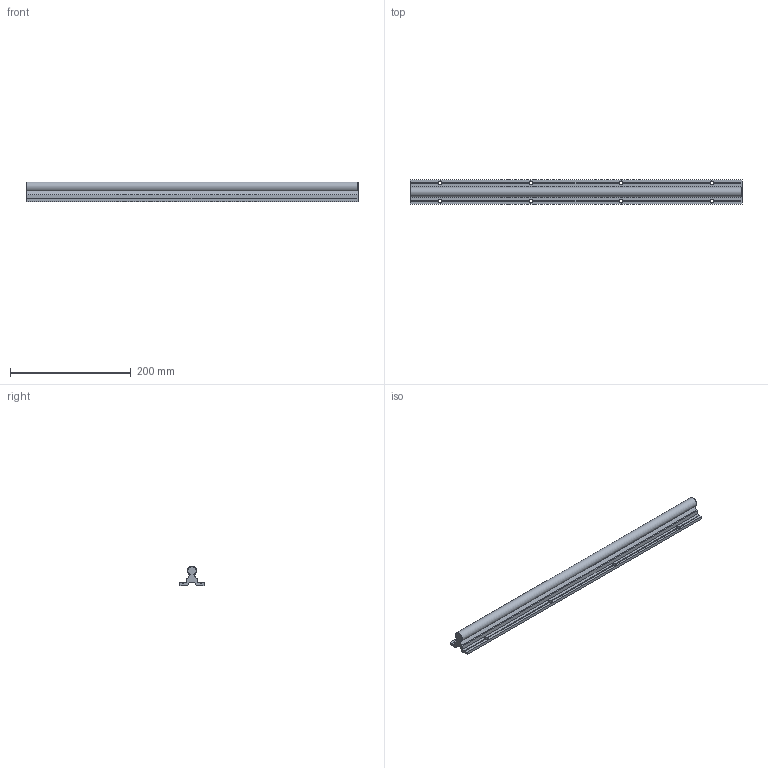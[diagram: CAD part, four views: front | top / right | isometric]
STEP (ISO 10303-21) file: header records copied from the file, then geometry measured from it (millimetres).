
FILE_DESCRIPTION(/* description */ (''),/* implementation_level */ '2;1');
FILE_NAME(/* name */ 'C:\Users\David\Desktop\stepFiles\Profilfuehrung\LFS16x550.stp',/* time_stamp */ '2018-06-24T15:18:12+02:00',/* author */ ('Buskamp'),/* organization */ (''),/* preprocessor_version */ 'ST-DEVELOPER v17',/* originating_system */ 'Autodesk Inventor 2019',/* authorisation */ '');
FILE_SCHEMA (('AUTOMOTIVE_DESIGN { 1 0 10303 214 3 1 1 }'));
Length unit declared in the file: millimetre
Products named in the file (1): Linearführung D16xvariabel
Bounding box: 550 x 40 x 32.97 mm (x, y, z)
Volume: 280767.7 mm3; surface area: 86960.6 mm2
Topology: 1 solids, 1 shells, 76 faces, 222 edges, 140 vertices
Faces by surface type: plane 49, cone 18, cylinder 9
Full cylindrical faces by diameter (mm): 5.5 x8
Entity records: 2545 total; most frequent: CARTESIAN_POINT 511, ORIENTED_EDGE 444, DIRECTION 416, EDGE_CURVE 222, AXIS2_PLACEMENT_3D 153, VERTEX_POINT 140, LINE 110, VECTOR 110
